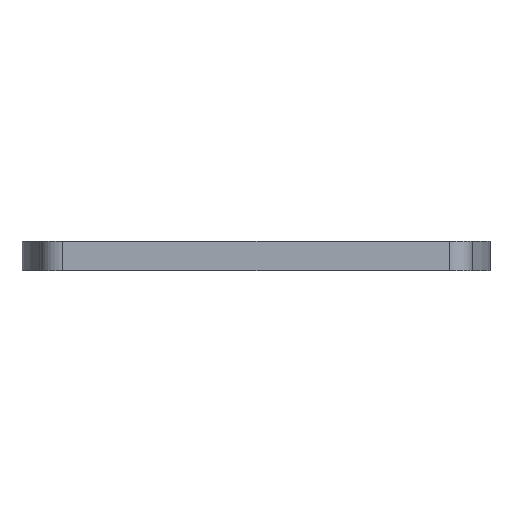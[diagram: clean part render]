
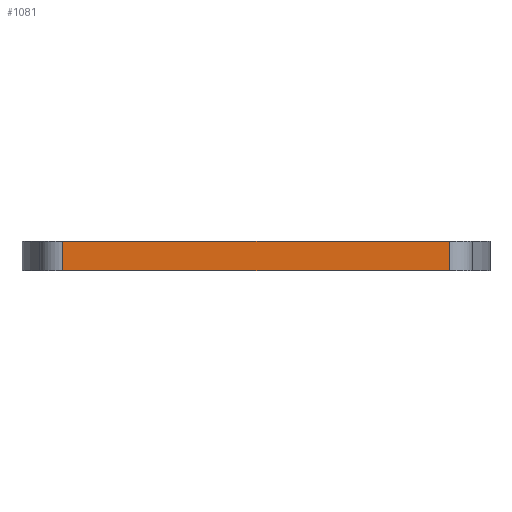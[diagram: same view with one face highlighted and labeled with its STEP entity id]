
A CAD part, front view. The second image highlights one B-rep face of the part: STEP entity #1081.
In plain terms, the highlighted planar face has unit normal (0, -1, 0).
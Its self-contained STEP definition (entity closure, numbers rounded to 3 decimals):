
#49 = LINE ( 'NONE', #866, #141 ) ;
#77 = VERTEX_POINT ( 'NONE', #335 ) ;
#79 = CARTESIAN_POINT ( 'NONE',  ( -40.612, -13.917, 0. ) ) ;
#101 = LINE ( 'NONE', #79, #743 ) ;
#138 = LINE ( 'NONE', #787, #270 ) ;
#141 = VECTOR ( 'NONE', #867, 1000. ) ;
#145 = CARTESIAN_POINT ( 'NONE',  ( -40.612, -13.917, 0. ) ) ;
#154 = DIRECTION ( 'NONE',  ( 0., -1., 0. ) ) ;
#194 = ORIENTED_EDGE ( 'NONE', *, *, #1055, .F. ) ;
#241 = CARTESIAN_POINT ( 'NONE',  ( -40.612, -13.917, -2.5 ) ) ;
#270 = VECTOR ( 'NONE', #611, 1000. ) ;
#284 = PLANE ( 'NONE',  #455 ) ;
#335 = CARTESIAN_POINT ( 'NONE',  ( -40.612, -13.917, -2.5 ) ) ;
#455 = AXIS2_PLACEMENT_3D ( 'NONE', #946, #154, #673 ) ;
#475 = EDGE_CURVE ( 'NONE', #77, #904, #49, .T. ) ;
#584 = FACE_OUTER_BOUND ( 'NONE', #919, .T. ) ;
#586 = CARTESIAN_POINT ( 'NONE',  ( -7.612, -13.917, -2.5 ) ) ;
#611 = DIRECTION ( 'NONE',  ( 0., 0., 1. ) ) ;
#630 = DIRECTION ( 'NONE',  ( 1., 0., 0. ) ) ;
#666 = VERTEX_POINT ( 'NONE', #877 ) ;
#673 = DIRECTION ( 'NONE',  ( 0., 0., -1. ) ) ;
#680 = ORIENTED_EDGE ( 'NONE', *, *, #894, .F. ) ;
#691 = ORIENTED_EDGE ( 'NONE', *, *, #1105, .T. ) ;
#739 = LINE ( 'NONE', #241, #898 ) ;
#743 = VECTOR ( 'NONE', #630, 1000. ) ;
#787 = CARTESIAN_POINT ( 'NONE',  ( -7.612, -13.917, -2.5 ) ) ;
#813 = VERTEX_POINT ( 'NONE', #145 ) ;
#831 = DIRECTION ( 'NONE',  ( 0., 0., 1. ) ) ;
#866 = CARTESIAN_POINT ( 'NONE',  ( -40.612, -13.917, -2.5 ) ) ;
#867 = DIRECTION ( 'NONE',  ( 1., 0., 0. ) ) ;
#877 = CARTESIAN_POINT ( 'NONE',  ( -7.612, -13.917, 0. ) ) ;
#894 = EDGE_CURVE ( 'NONE', #77, #813, #739, .T. ) ;
#898 = VECTOR ( 'NONE', #831, 1000. ) ;
#904 = VERTEX_POINT ( 'NONE', #586 ) ;
#918 = ORIENTED_EDGE ( 'NONE', *, *, #475, .T. ) ;
#919 = EDGE_LOOP ( 'NONE', ( #194, #680, #918, #691 ) ) ;
#946 = CARTESIAN_POINT ( 'NONE',  ( -40.612, -13.917, -2.5 ) ) ;
#1055 = EDGE_CURVE ( 'NONE', #813, #666, #101, .T. ) ;
#1081 = ADVANCED_FACE ( 'NONE', ( #584 ), #284, .T. ) ;
#1105 = EDGE_CURVE ( 'NONE', #904, #666, #138, .T. ) ;
